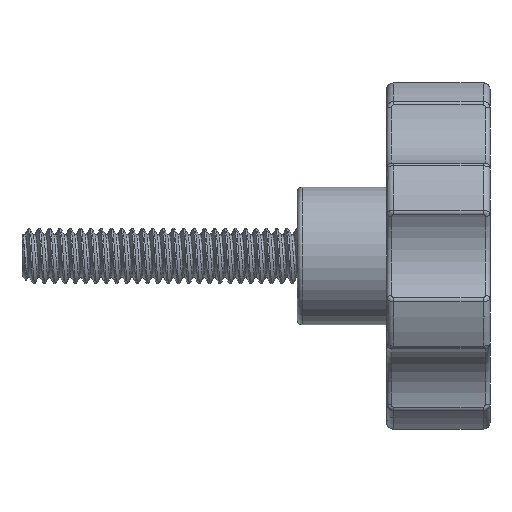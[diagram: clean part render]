
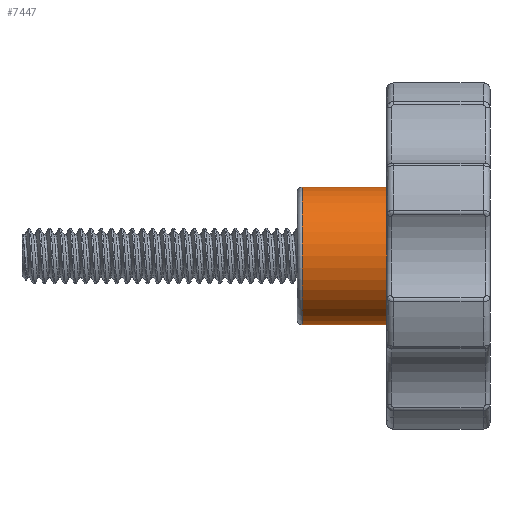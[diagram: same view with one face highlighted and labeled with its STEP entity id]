
A CAD part, left-side view. The second image highlights one B-rep face of the part: STEP entity #7447.
In plain terms, the highlighted cylindrical face has radius 10 mm (diameter 20 mm), a partial arc.
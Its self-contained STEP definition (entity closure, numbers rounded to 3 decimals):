
#562 = VERTEX_POINT ( 'NONE', #3314 ) ;
#842 = CARTESIAN_POINT ( 'NONE',  ( 0., 27.3, 10. ) ) ;
#896 = CARTESIAN_POINT ( 'NONE',  ( 0., 27.3, 0. ) ) ;
#990 = AXIS2_PLACEMENT_3D ( 'NONE', #6662, #11887, #6701 ) ;
#1379 = ORIENTED_EDGE ( 'NONE', *, *, #12058, .T. ) ;
#1685 = ORIENTED_EDGE ( 'NONE', *, *, #2683, .T. ) ;
#1738 = VERTEX_POINT ( 'NONE', #842 ) ;
#1929 = DIRECTION ( 'NONE',  ( 0., 0., -1. ) ) ;
#2499 = ORIENTED_EDGE ( 'NONE', *, *, #6858, .F. ) ;
#2683 = EDGE_CURVE ( 'NONE', #5168, #562, #12116, .T. ) ;
#3314 = CARTESIAN_POINT ( 'NONE',  ( 0., 3.7, -10. ) ) ;
#3464 = DIRECTION ( 'NONE',  ( 0., -1., 0. ) ) ;
#3767 = CARTESIAN_POINT ( 'NONE',  ( 0., 27.3, -10. ) ) ;
#3980 = DIRECTION ( 'NONE',  ( 0., 1., 0. ) ) ;
#4151 = VECTOR ( 'NONE', #3464, 1000. ) ;
#4259 = CIRCLE ( 'NONE', #7952, 10. ) ;
#4464 = VECTOR ( 'NONE', #4966, 1000. ) ;
#4877 = CARTESIAN_POINT ( 'NONE',  ( 0., 0., -10. ) ) ;
#4966 = DIRECTION ( 'NONE',  ( 0., -1., 0. ) ) ;
#5168 = VERTEX_POINT ( 'NONE', #3767 ) ;
#5501 = EDGE_CURVE ( 'NONE', #562, #9735, #4259, .T. ) ;
#6662 = CARTESIAN_POINT ( 'NONE',  ( 0., 0., 0. ) ) ;
#6701 = DIRECTION ( 'NONE',  ( 0., 0., -1. ) ) ;
#6858 = EDGE_CURVE ( 'NONE', #1738, #9735, #12129, .T. ) ;
#6941 = CARTESIAN_POINT ( 'NONE',  ( 0., 3.7, 10. ) ) ;
#7447 = ADVANCED_FACE ( 'NONE', ( #12591 ), #9575, .T. ) ;
#7952 = AXIS2_PLACEMENT_3D ( 'NONE', #10287, #3980, #11306 ) ;
#8177 = DIRECTION ( 'NONE',  ( 0., -1., 0. ) ) ;
#9021 = EDGE_LOOP ( 'NONE', ( #2499, #1379, #1685, #10355 ) ) ;
#9575 = CYLINDRICAL_SURFACE ( 'NONE', #990, 10. ) ;
#9735 = VERTEX_POINT ( 'NONE', #6941 ) ;
#9758 = CARTESIAN_POINT ( 'NONE',  ( 0., 0., 10. ) ) ;
#9788 = CIRCLE ( 'NONE', #11118, 10. ) ;
#10287 = CARTESIAN_POINT ( 'NONE',  ( 0., 3.7, 0. ) ) ;
#10355 = ORIENTED_EDGE ( 'NONE', *, *, #5501, .T. ) ;
#11118 = AXIS2_PLACEMENT_3D ( 'NONE', #896, #8177, #1929 ) ;
#11306 = DIRECTION ( 'NONE',  ( 0., 0., -1. ) ) ;
#11887 = DIRECTION ( 'NONE',  ( 0., -1., 0. ) ) ;
#12058 = EDGE_CURVE ( 'NONE', #1738, #5168, #9788, .T. ) ;
#12116 = LINE ( 'NONE', #4877, #4464 ) ;
#12129 = LINE ( 'NONE', #9758, #4151 ) ;
#12591 = FACE_OUTER_BOUND ( 'NONE', #9021, .T. ) ;
